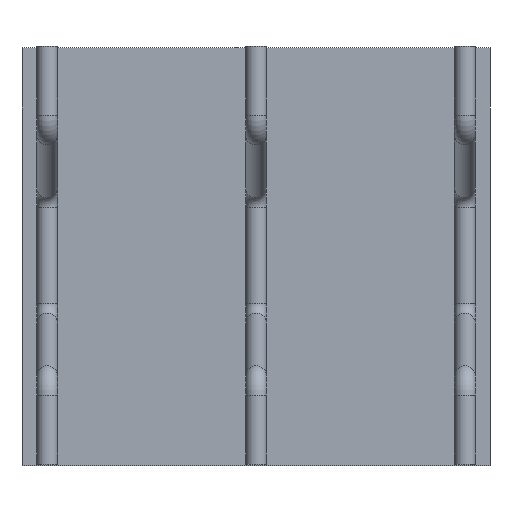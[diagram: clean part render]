
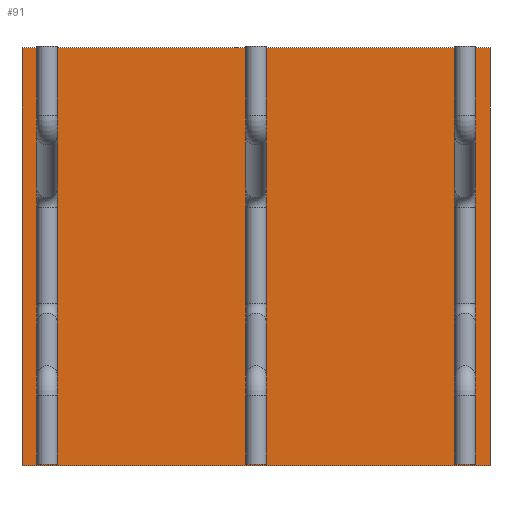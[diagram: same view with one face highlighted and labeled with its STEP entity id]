
A CAD part, top view. The second image highlights one B-rep face of the part: STEP entity #91.
In plain terms, the highlighted planar face has unit normal (0, 0, 1).
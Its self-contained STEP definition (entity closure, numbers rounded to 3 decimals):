
#52=CARTESIAN_POINT('Axis2P3D Location',(0.,0.,0.)) ;
#57=CARTESIAN_POINT('Line Origine',(0.,500.,0.)) ;
#61=CARTESIAN_POINT('Vertex',(560.,500.,0.)) ;
#63=CARTESIAN_POINT('Vertex',(-560.,500.,0.)) ;
#66=CARTESIAN_POINT('Line Origine',(-560.,0.,0.)) ;
#70=CARTESIAN_POINT('Vertex',(-560.,-500.,0.)) ;
#73=CARTESIAN_POINT('Line Origine',(0.,-500.,0.)) ;
#77=CARTESIAN_POINT('Vertex',(560.,-500.,0.)) ;
#80=CARTESIAN_POINT('Line Origine',(560.,0.,0.)) ;
#53=DIRECTION('Axis2P3D Direction',(0.,0.,1.)) ;
#54=DIRECTION('Axis2P3D XDirection',(1.,0.,0.)) ;
#58=DIRECTION('Vector Direction',(1.,0.,0.)) ;
#67=DIRECTION('Vector Direction',(0.,1.,0.)) ;
#74=DIRECTION('Vector Direction',(-1.,0.,0.)) ;
#81=DIRECTION('Vector Direction',(0.,-1.,0.)) ;
#55=AXIS2_PLACEMENT_3D('Plane Axis2P3D',#52,#53,#54) ;
#86=ORIENTED_EDGE('',*,*,#65,.T.) ;
#87=ORIENTED_EDGE('',*,*,#72,.T.) ;
#88=ORIENTED_EDGE('',*,*,#79,.T.) ;
#89=ORIENTED_EDGE('',*,*,#84,.T.) ;
#59=VECTOR('Line Direction',#58,1.) ;
#68=VECTOR('Line Direction',#67,1.) ;
#75=VECTOR('Line Direction',#74,1.) ;
#82=VECTOR('Line Direction',#81,1.) ;
#91=ADVANCED_FACE('Fill.1',(#90),#56,.T.) ;
#65=EDGE_CURVE('',#62,#64,#60,.F.) ;
#72=EDGE_CURVE('',#64,#71,#69,.F.) ;
#79=EDGE_CURVE('',#71,#78,#76,.F.) ;
#84=EDGE_CURVE('',#78,#62,#83,.F.) ;
#85=EDGE_LOOP('',(#86,#87,#88,#89)) ;
#90=FACE_OUTER_BOUND('',#85,.T.) ;
#60=LINE('Line',#57,#59) ;
#69=LINE('Line',#66,#68) ;
#76=LINE('Line',#73,#75) ;
#83=LINE('Line',#80,#82) ;
#56=PLANE('',#55) ;
#62=VERTEX_POINT('',#61) ;
#64=VERTEX_POINT('',#63) ;
#71=VERTEX_POINT('',#70) ;
#78=VERTEX_POINT('',#77) ;
